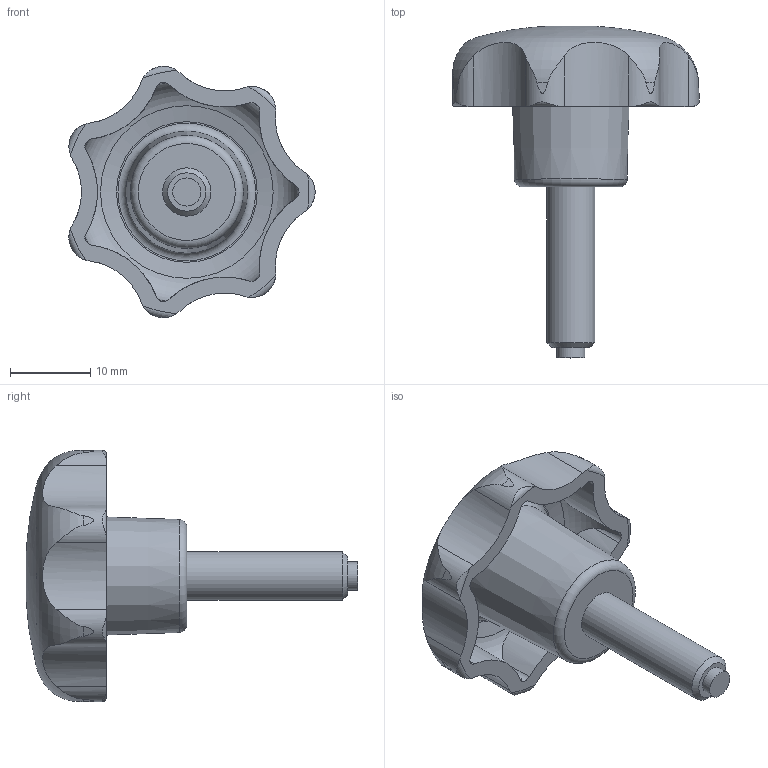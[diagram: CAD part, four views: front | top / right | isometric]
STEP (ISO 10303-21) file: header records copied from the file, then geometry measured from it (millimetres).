
FILE_DESCRIPTION( ( 'STEP AP203' ), '1' );
FILE_NAME( 'C:/Temp/Ganter_Step_05_03_2020/data/2_2/gn6336_10/Star knob GN 6336.10-32-M6-20-KU.stp', '2020-03-05T12:04:21', ( 'License CC BY-ND 4.0' ), ( 'CADENAS' ), ' ', 'PARTsolutions', ' ' );
FILE_SCHEMA( ( 'CONFIG_CONTROL_DESIGN' ) );
Length unit declared in the file: millimetre
Products named in the file (1): _Star knob GN 6336.10-32-M6-20-KU
Bounding box: 30.63 x 41.32 x 31.27 mm (x, y, z)
Volume: 5964.2 mm3; surface area: 3683.5 mm2
Topology: 1 solids, 1 shells, 65 faces, 189 edges, 128 vertices
Faces by surface type: cylinder 30, cone 17, torus 13, plane 4, bspline 1
Full cylindrical faces by diameter (mm): 3.5 x1, 6 x1
Entity records: 3035 total; most frequent: CARTESIAN_POINT 1421, ORIENTED_EDGE 348, DIRECTION 296, EDGE_CURVE 174, AXIS2_PLACEMENT_3D 134, VERTEX_POINT 125, EDGE_LOOP 78, B_SPLINE_CURVE_WITH_KNOTS 77
